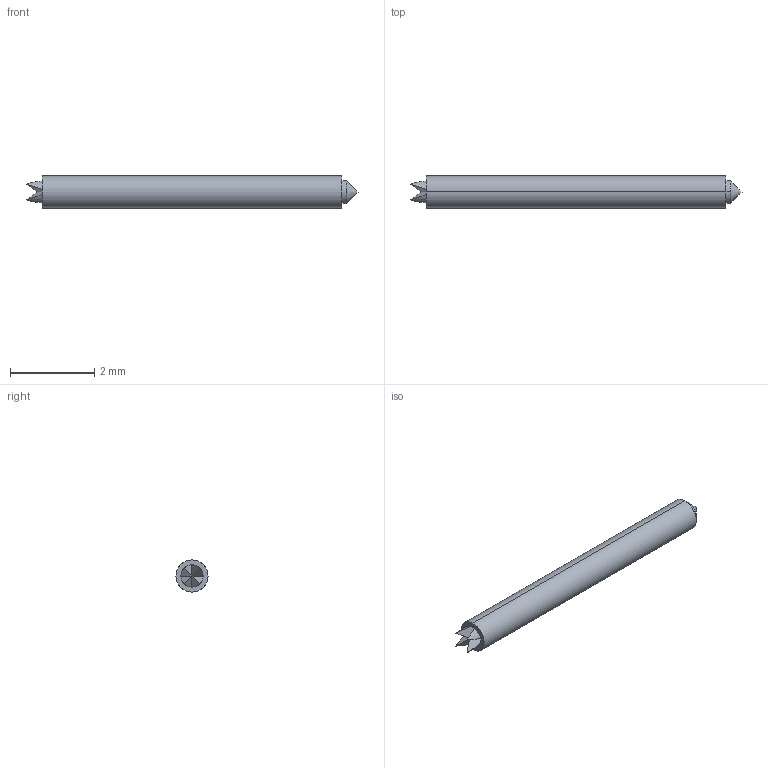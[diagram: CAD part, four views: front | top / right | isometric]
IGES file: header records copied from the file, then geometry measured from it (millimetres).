
Start section: SolidWorks IGES file using analytic representation for surfaces
Global section: file name: Z:\probe solid model mockups\Solidworks models\IGES Files\CSP1-1.27 IGES files\CSP1-1.27BL Full.IGS; native system: SolidWorks 2006 by SolidWorks Corporation; preprocessor: SolidWorks 2006 by SolidWorks Corporation; author: tsakatani; date: 080108.155354; units: inch
Bounding box: 7.87 x 0.76 x 0.76 mm (x, y, z)
Surface area: 18.9 mm2 (no closed solid volume)
Topology: 0 solids, 0 shells, 25 faces, 168 edges, 166 vertices
Faces by surface type: revolution 15, bspline 10
